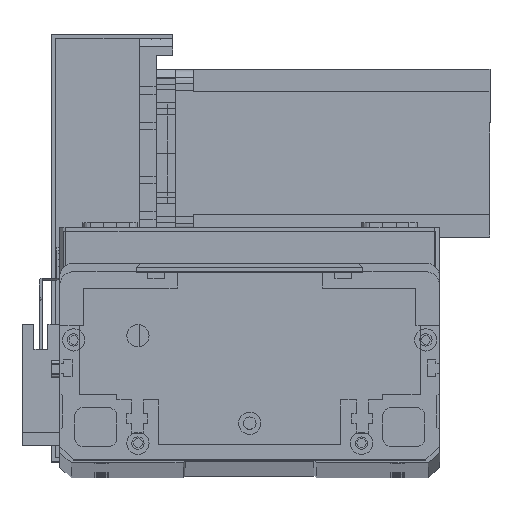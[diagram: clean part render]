
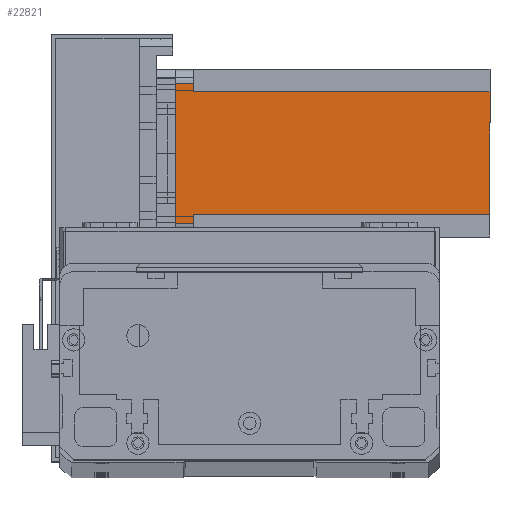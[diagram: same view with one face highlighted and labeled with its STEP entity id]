
A CAD part, top view. The second image highlights one B-rep face of the part: STEP entity #22821.
In plain terms, the highlighted planar face has unit normal (0, 0, 1) as drawn and (0, -1, 0) by its records, which use the part's own axes.
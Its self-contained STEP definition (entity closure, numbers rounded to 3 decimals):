
#551 = VERTEX_POINT ( 'NONE', #23508 ) ;
#624 = EDGE_CURVE ( 'NONE', #6530, #27211, #4561, .T. ) ;
#638 = LINE ( 'NONE', #28928, #26428 ) ;
#1367 = VERTEX_POINT ( 'NONE', #3145 ) ;
#2145 = CARTESIAN_POINT ( 'NONE',  ( 55., 0., 0. ) ) ;
#2359 = ORIENTED_EDGE ( 'NONE', *, *, #4712, .T. ) ;
#3145 = CARTESIAN_POINT ( 'NONE',  ( 5., 0., -6.5 ) ) ;
#3640 = ORIENTED_EDGE ( 'NONE', *, *, #20199, .T. ) ;
#4031 = DIRECTION ( 'NONE',  ( 1., 0., 0. ) ) ;
#4133 = ORIENTED_EDGE ( 'NONE', *, *, #12553, .F. ) ;
#4336 = ORIENTED_EDGE ( 'NONE', *, *, #7658, .T. ) ;
#4561 = LINE ( 'NONE', #9440, #11190 ) ;
#4712 = EDGE_CURVE ( 'NONE', #27370, #551, #29001, .T. ) ;
#4883 = CARTESIAN_POINT ( 'NONE',  ( 0., 0., -112.5 ) ) ;
#5415 = ORIENTED_EDGE ( 'NONE', *, *, #16394, .F. ) ;
#6485 = DIRECTION ( 'NONE',  ( 0., 0., 1. ) ) ;
#6530 = VERTEX_POINT ( 'NONE', #18756 ) ;
#6664 = VECTOR ( 'NONE', #13080, 1000. ) ;
#7400 = DIRECTION ( 'NONE',  ( 0., 0., -1. ) ) ;
#7462 = LINE ( 'NONE', #13287, #6664 ) ;
#7508 = CARTESIAN_POINT ( 'NONE',  ( 5., 0., 0. ) ) ;
#7658 = EDGE_CURVE ( 'NONE', #10032, #1367, #7462, .T. ) ;
#8687 = LINE ( 'NONE', #12499, #20765 ) ;
#8991 = VECTOR ( 'NONE', #4031, 1000. ) ;
#9169 = ORIENTED_EDGE ( 'NONE', *, *, #624, .F. ) ;
#9440 = CARTESIAN_POINT ( 'NONE',  ( 8., 0., -112.5 ) ) ;
#9623 = CARTESIAN_POINT ( 'NONE',  ( 8., 0., -6.5 ) ) ;
#9667 = DIRECTION ( 'NONE',  ( -1., 0., 0. ) ) ;
#9768 = EDGE_CURVE ( 'NONE', #551, #14573, #8687, .T. ) ;
#9817 = CARTESIAN_POINT ( 'NONE',  ( 52., 0., -112.5 ) ) ;
#10032 = VERTEX_POINT ( 'NONE', #7508 ) ;
#11190 = VECTOR ( 'NONE', #6485, 1000. ) ;
#11838 = FACE_OUTER_BOUND ( 'NONE', #17162, .T. ) ;
#12499 = CARTESIAN_POINT ( 'NONE',  ( 55., 0., -112.5 ) ) ;
#12551 = DIRECTION ( 'NONE',  ( 0., 0., 1. ) ) ;
#12553 = EDGE_CURVE ( 'NONE', #27211, #1367, #13416, .T. ) ;
#13080 = DIRECTION ( 'NONE',  ( 0., 0., -1. ) ) ;
#13287 = CARTESIAN_POINT ( 'NONE',  ( 5., 0., -112.5 ) ) ;
#13416 = LINE ( 'NONE', #9623, #20582 ) ;
#14081 = ORIENTED_EDGE ( 'NONE', *, *, #26927, .F. ) ;
#14573 = VERTEX_POINT ( 'NONE', #2145 ) ;
#14697 = DIRECTION ( 'NONE',  ( 1., 0., 0. ) ) ;
#15655 = VECTOR ( 'NONE', #22166, 1000. ) ;
#16294 = VERTEX_POINT ( 'NONE', #27667 ) ;
#16308 = ORIENTED_EDGE ( 'NONE', *, *, #9768, .T. ) ;
#16394 = EDGE_CURVE ( 'NONE', #10032, #14573, #28064, .T. ) ;
#17162 = EDGE_LOOP ( 'NONE', ( #2359, #16308, #5415, #4336, #4133, #9169, #3640, #14081 ) ) ;
#18027 = CARTESIAN_POINT ( 'NONE',  ( 8., 0., -6.5 ) ) ;
#18690 = CARTESIAN_POINT ( 'NONE',  ( 0., 0., 0. ) ) ;
#18756 = CARTESIAN_POINT ( 'NONE',  ( 8., 0., -112.5 ) ) ;
#19006 = VECTOR ( 'NONE', #26529, 1000. ) ;
#20199 = EDGE_CURVE ( 'NONE', #6530, #16294, #638, .T. ) ;
#20582 = VECTOR ( 'NONE', #9667, 1000. ) ;
#20765 = VECTOR ( 'NONE', #12551, 1000. ) ;
#21031 = CARTESIAN_POINT ( 'NONE',  ( 52., 0., -6.5 ) ) ;
#21862 = DIRECTION ( 'NONE',  ( 0., -1., 0. ) ) ;
#22166 = DIRECTION ( 'NONE',  ( 1., 0., 0. ) ) ;
#22821 = ADVANCED_FACE ( 'NONE', ( #11838 ), #31205, .T. ) ;
#23508 = CARTESIAN_POINT ( 'NONE',  ( 55., 0., -6.5 ) ) ;
#24121 = AXIS2_PLACEMENT_3D ( 'NONE', #4883, #21862, #7400 ) ;
#25313 = LINE ( 'NONE', #9817, #19006 ) ;
#26032 = CARTESIAN_POINT ( 'NONE',  ( 52., 0., -6.5 ) ) ;
#26428 = VECTOR ( 'NONE', #14697, 1000. ) ;
#26529 = DIRECTION ( 'NONE',  ( 0., 0., -1. ) ) ;
#26927 = EDGE_CURVE ( 'NONE', #27370, #16294, #25313, .T. ) ;
#27211 = VERTEX_POINT ( 'NONE', #18027 ) ;
#27370 = VERTEX_POINT ( 'NONE', #21031 ) ;
#27667 = CARTESIAN_POINT ( 'NONE',  ( 52., 0., -112.5 ) ) ;
#28064 = LINE ( 'NONE', #18690, #8991 ) ;
#28928 = CARTESIAN_POINT ( 'NONE',  ( 0., 0., -112.5 ) ) ;
#29001 = LINE ( 'NONE', #26032, #15655 ) ;
#31205 = PLANE ( 'NONE',  #24121 ) ;
